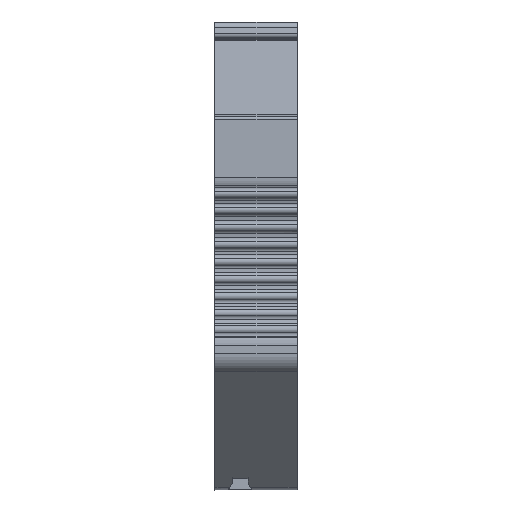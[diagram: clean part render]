
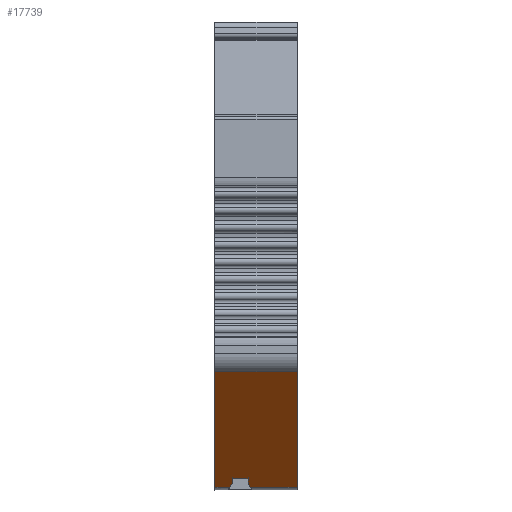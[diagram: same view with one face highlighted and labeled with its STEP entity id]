
A CAD part, left-side view. The second image highlights one B-rep face of the part: STEP entity #17739.
In plain terms, the highlighted planar face has unit normal (-0.446, 0, -0.895).
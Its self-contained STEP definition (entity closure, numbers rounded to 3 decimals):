
#982=DIRECTION('',(-0.895,0.,0.446));
#983=VECTOR('',#982,19.528);
#984=CARTESIAN_POINT('',(-140.592,0.,
0.21));
#985=LINE('',#984,#983);
#2444=DIRECTION('',(0.895,0.,-0.446));
#2445=VECTOR('',#2444,19.528);
#2446=CARTESIAN_POINT('',(-158.069,-6.2,
8.922));
#2447=LINE('',#2446,#2445);
#3012=DIRECTION('',(-0.895,0.,0.446));
#3013=VECTOR('',#3012,0.811);
#3014=CARTESIAN_POINT('',(-141.174,-2.5,
0.5));
#3015=LINE('',#3014,#3013);
#3265=DIRECTION('',(0.895,0.,-0.446));
#3266=VECTOR('',#3265,0.811);
#3267=CARTESIAN_POINT('',(-141.9,-1.3,
0.862));
#3268=LINE('',#3267,#3266);
#3819=DIRECTION('',(0.,1.,0.));
#3820=VECTOR('',#3819,1.126);
#3821=CARTESIAN_POINT('',(-140.592,-1.126,
0.21));
#3822=LINE('',#3821,#3820);
#3832=DIRECTION('',(0.865,-0.259,-0.431));
#3833=VECTOR('',#3832,0.673);
#3834=CARTESIAN_POINT('',(-141.174,-2.5,
0.5));
#3835=LINE('',#3834,#3833);
#3836=DIRECTION('',(0.,-1.,0.));
#3837=VECTOR('',#3836,1.2);
#3838=CARTESIAN_POINT('',(-141.9,-1.3,
0.862));
#3839=LINE('',#3838,#3837);
#3840=DIRECTION('',(-0.865,-0.259,0.431));
#3841=VECTOR('',#3840,0.673);
#3842=CARTESIAN_POINT('',(-140.592,-1.126,
0.21));
#3843=LINE('',#3842,#3841);
#3848=DIRECTION('',(0.,-1.,0.));
#3849=VECTOR('',#3848,6.2);
#3850=CARTESIAN_POINT('',(-158.069,0.,
8.922));
#3851=LINE('',#3850,#3849);
#4090=DIRECTION('',(0.,1.,0.));
#4091=VECTOR('',#4090,3.526);
#4092=CARTESIAN_POINT('',(-140.592,-6.2,
0.21));
#4093=LINE('',#4092,#4091);
#11589=CARTESIAN_POINT('',(-158.069,-6.2,
8.922));
#11590=VERTEX_POINT('',#11589);
#11591=CARTESIAN_POINT('',(-140.592,-6.2,
0.21));
#11592=VERTEX_POINT('',#11591);
#11979=CARTESIAN_POINT('',(-140.592,0.,
0.21));
#11980=VERTEX_POINT('',#11979);
#11981=CARTESIAN_POINT('',(-158.069,0.,
8.922));
#11982=VERTEX_POINT('',#11981);
#12431=CARTESIAN_POINT('',(-141.174,-2.5,
0.5));
#12432=VERTEX_POINT('',#12431);
#12433=CARTESIAN_POINT('',(-141.9,-2.5,
0.862));
#12434=VERTEX_POINT('',#12433);
#12533=CARTESIAN_POINT('',(-140.592,-2.674,
0.21));
#12534=VERTEX_POINT('',#12533);
#12537=CARTESIAN_POINT('',(-140.592,-1.126,
0.21));
#12538=VERTEX_POINT('',#12537);
#12539=CARTESIAN_POINT('',(-141.174,-1.3,
0.5));
#12540=VERTEX_POINT('',#12539);
#12541=CARTESIAN_POINT('',(-141.9,-1.3,
0.862));
#12542=VERTEX_POINT('',#12541);
#17717=CARTESIAN_POINT('',(-149.331,-3.1,
4.566));
#17718=DIRECTION('',(0.446,0.,0.895));
#17719=DIRECTION('',(0.,-1.,0.));
#17720=AXIS2_PLACEMENT_3D('',#17717,#17718,#17719);
#17721=PLANE('',#17720);
#17722=ORIENTED_EDGE('',*,*,#17709,.T.);
#17723=ORIENTED_EDGE('',*,*,#15288,.T.);
#17725=ORIENTED_EDGE('',*,*,#17724,.T.);
#17726=ORIENTED_EDGE('',*,*,#16310,.T.);
#17728=ORIENTED_EDGE('',*,*,#17727,.T.);
#17730=ORIENTED_EDGE('',*,*,#17729,.F.);
#17731=ORIENTED_EDGE('',*,*,#16804,.T.);
#17733=ORIENTED_EDGE('',*,*,#17732,.F.);
#17734=ORIENTED_EDGE('',*,*,#17011,.T.);
#17736=ORIENTED_EDGE('',*,*,#17735,.F.);
#17737=EDGE_LOOP('',(#17722,#17723,#17725,#17726,#17728,#17730,#17731,#17733,
#17734,#17736));
#17738=FACE_OUTER_BOUND('',#17737,.F.);
#17739=ADVANCED_FACE('',(#17738),#17721,.F.);
#15288=EDGE_CURVE('',#11980,#11982,#985,.T.);
#16310=EDGE_CURVE('',#11590,#11592,#2447,.T.);
#16804=EDGE_CURVE('',#12432,#12434,#3015,.T.);
#17011=EDGE_CURVE('',#12542,#12540,#3268,.T.);
#17709=EDGE_CURVE('',#12538,#11980,#3822,.T.);
#17724=EDGE_CURVE('',#11982,#11590,#3851,.T.);
#17727=EDGE_CURVE('',#11592,#12534,#4093,.T.);
#17729=EDGE_CURVE('',#12432,#12534,#3835,.T.);
#17732=EDGE_CURVE('',#12542,#12434,#3839,.T.);
#17735=EDGE_CURVE('',#12538,#12540,#3843,.T.);
